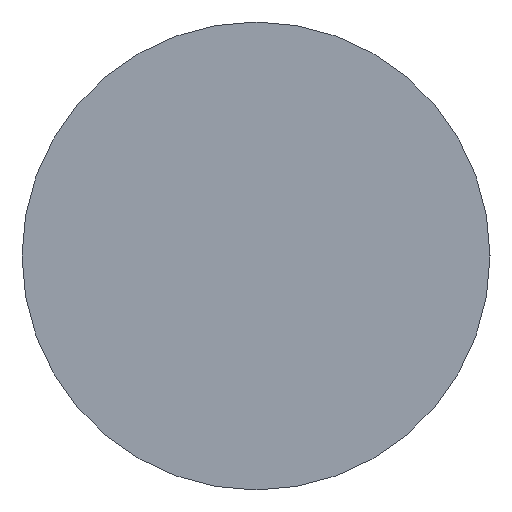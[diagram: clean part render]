
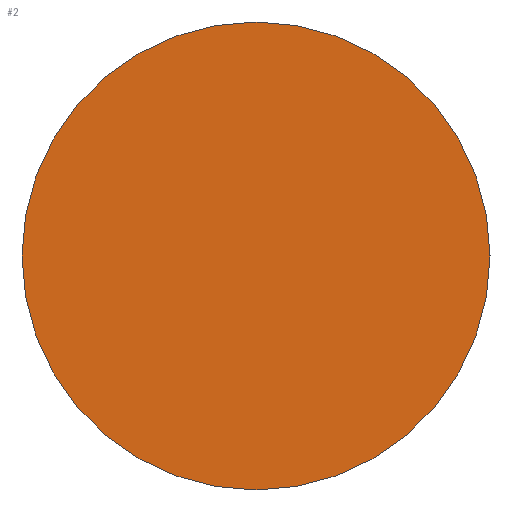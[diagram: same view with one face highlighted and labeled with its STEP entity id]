
A CAD part, left-side view. The second image highlights one B-rep face of the part: STEP entity #2.
In plain terms, the highlighted planar face has unit normal (-1, 0, 0).
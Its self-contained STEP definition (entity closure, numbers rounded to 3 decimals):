
#2 = ADVANCED_FACE ( 'NONE', ( #22 ), #137, .F. ) ;
#3 = CIRCLE ( 'NONE', #105, 2.5 ) ;
#5 = CARTESIAN_POINT ( 'NONE',  ( 0., 0., -2.5 ) ) ;
#13 = CIRCLE ( 'NONE', #130, 2.5 ) ;
#14 = VERTEX_POINT ( 'NONE', #61 ) ;
#16 = CARTESIAN_POINT ( 'NONE',  ( 0., 0., 0. ) ) ;
#21 = EDGE_CURVE ( 'NONE', #14, #29, #3, .T. ) ;
#22 = FACE_OUTER_BOUND ( 'NONE', #42, .T. ) ;
#29 = VERTEX_POINT ( 'NONE', #5 ) ;
#33 = DIRECTION ( 'NONE',  ( 0., 0., -1. ) ) ;
#34 = AXIS2_PLACEMENT_3D ( 'NONE', #135, #77, #83 ) ;
#41 = EDGE_CURVE ( 'NONE', #29, #14, #13, .T. ) ;
#42 = EDGE_LOOP ( 'NONE', ( #65, #128 ) ) ;
#47 = CARTESIAN_POINT ( 'NONE',  ( 0., 0., 0. ) ) ;
#61 = CARTESIAN_POINT ( 'NONE',  ( 0., 0., 2.5 ) ) ;
#63 = DIRECTION ( 'NONE',  ( 0., 0., -1. ) ) ;
#65 = ORIENTED_EDGE ( 'NONE', *, *, #21, .F. ) ;
#73 = DIRECTION ( 'NONE',  ( 1., 0., 0. ) ) ;
#77 = DIRECTION ( 'NONE',  ( 1., 0., 0. ) ) ;
#83 = DIRECTION ( 'NONE',  ( 0., 0., -1. ) ) ;
#95 = DIRECTION ( 'NONE',  ( 1., 0., 0. ) ) ;
#105 = AXIS2_PLACEMENT_3D ( 'NONE', #47, #95, #63 ) ;
#128 = ORIENTED_EDGE ( 'NONE', *, *, #41, .F. ) ;
#130 = AXIS2_PLACEMENT_3D ( 'NONE', #16, #73, #33 ) ;
#135 = CARTESIAN_POINT ( 'NONE',  ( 0., 0., 0. ) ) ;
#137 = PLANE ( 'NONE',  #34 ) ;
